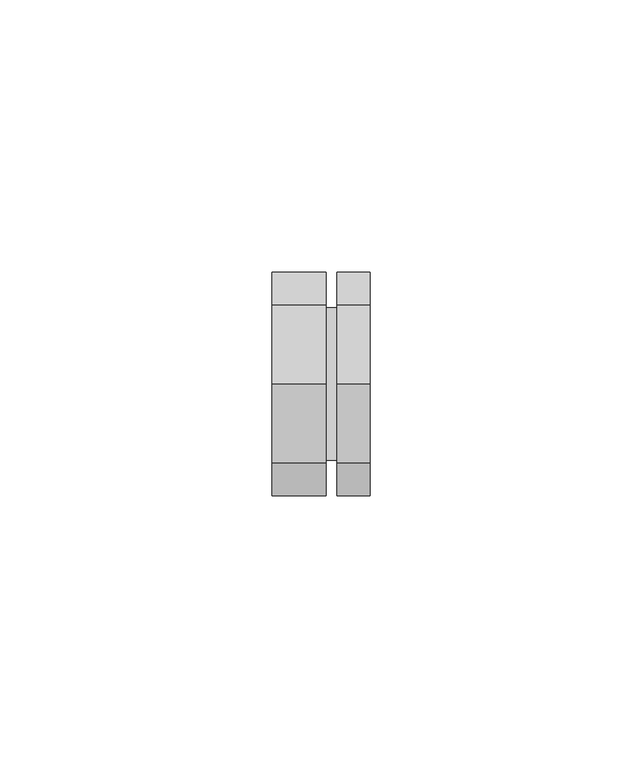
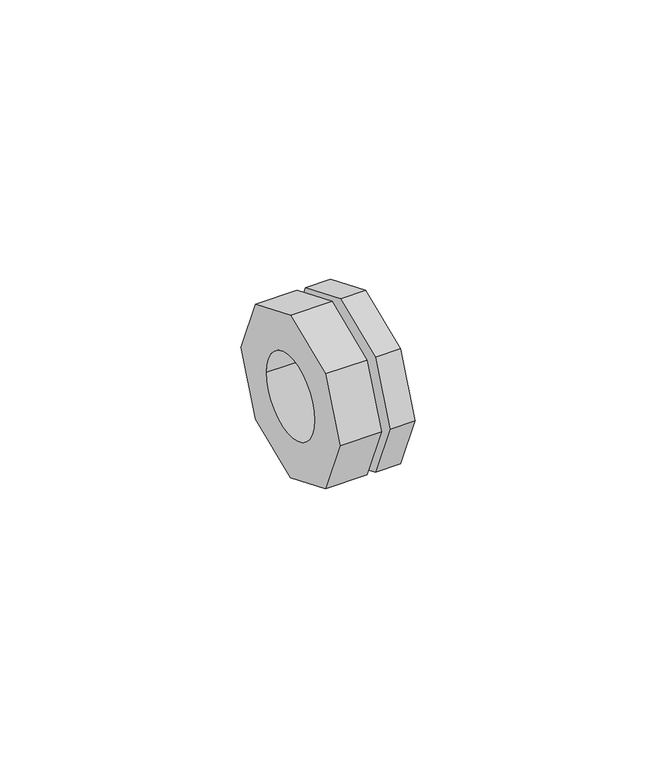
"""IFC4 building model written with IfcOpenShell, lengths in millimetres: pipe fitting geometry, 29_Соединение разборное труба_труба : Белый цвет."""

from ifc_helpers import new_model, si_unit, point, frame, origin, origin_2d, place, context, project, spatial, polyline, circle_curve, trimmed, segment, composite_curve, outline, extrude, source, transform, mapped, element, save


def pipe_fitting_d9629d4b(model_context):
    return source(origin(), model_context, "Body", "SweptSolid", [
        extrude(outline(composite_curve([segment(trimmed(circle_curve(origin_2d(), 14.0), [point((-14.0, 0.0))], [point((14.0, 0.0))], False, "CARTESIAN"), True, "CONTINUOUS"), segment(trimmed(circle_curve(origin_2d(), 14.0), [point((14.0, 0.0))], [point((-14.0, 0.0))], False, "CARTESIAN"), True, "CONTINUOUS")], self_intersect=False), holes=[composite_curve([segment(trimmed(circle_curve(origin_2d(), 10.0), [point((-10.0, 0.0))], [point((10.0, 0.0))], True, "CARTESIAN"), True, "CONTINUOUS"), segment(trimmed(circle_curve(origin_2d(), 10.0), [point((10.0, 0.0))], [point((-10.0, 0.0))], True, "CARTESIAN"), True, "CONTINUOUS")], self_intersect=False)]), frame((0.0, 0.0, 0.0), z_axis=(1.0, 0.0, 0.0), x_axis=(0.0, 1.0, 0.0)), (0.0, 0.0, 1.0), 2.0),
        extrude(outline(polyline([(-14.5419704, 14.5419704), (0.0, 20.5654518), (14.5419704, 14.5419704), (20.5654518, 0.0), (14.5419704, -14.5419704), (0.0, -20.5654518), (-14.5419704, -14.5419704), (-20.5654518, 0.0), (-14.5419704, 14.5419704)]), holes=[composite_curve([segment(trimmed(circle_curve(origin_2d(), 10.0), [point((-10.0, 0.0))], [point((10.0, 0.0))], True, "CARTESIAN"), True, "CONTINUOUS"), segment(trimmed(circle_curve(origin_2d(), 10.0), [point((10.0, 0.0))], [point((-10.0, 0.0))], True, "CARTESIAN"), True, "CONTINUOUS")], self_intersect=False)]), frame((2.0, 0.0, 0.0), z_axis=(1.0, 0.0, 0.0), x_axis=(0.0, 1.0, 0.0)), (0.0, 0.0, 1.0), 6.0),
        extrude(outline(polyline([(-14.5419704, 14.5419704), (0.0, 20.5654518), (14.5419704, 14.5419704), (20.5654518, 0.0), (14.5419704, -14.5419704), (0.0, -20.5654518), (-14.5419704, -14.5419704), (-20.5654518, 0.0), (-14.5419704, 14.5419704)]), holes=[composite_curve([segment(trimmed(circle_curve(origin_2d(), 10.0), [point((-10.0, 0.0))], [point((10.0, 0.0))], True, "CARTESIAN"), True, "CONTINUOUS"), segment(trimmed(circle_curve(origin_2d(), 10.0), [point((10.0, 0.0))], [point((-10.0, 0.0))], True, "CARTESIAN"), True, "CONTINUOUS")], self_intersect=False)]), frame((-10.0, 0.0, 0.0), z_axis=(1.0, 0.0, 0.0), x_axis=(0.0, 1.0, 0.0)), (0.0, 0.0, 1.0), 10.0),
    ])


if __name__ == "__main__":
    model = new_model("IFC4")
    model_context = context("Model", 3, world=origin())
    ifc_project = project(units=[si_unit("LENGTHUNIT", "METRE", prefix="MILLI")], contexts=[model_context])
    site = spatial("IfcSite", under=ifc_project)
    building = spatial("IfcBuilding", under=site)
    placement = place(None, origin())
    pipe_fitting_shape = pipe_fitting_d9629d4b(model_context)
    element("IfcPipeFitting", 1, ObjectType="29_Соединение разборное труба_труба : Белый цвет", at=placement, inside=building, context=model_context, shape_type="MappedRepresentation", body=[
        mapped(pipe_fitting_shape, transform((0.0, 0.0, 0.0), x_axis=(1.0, 0.0, 0.0), y_axis=(0.0, 1.0, 0.0), z_axis=(0.0, 0.0, 1.0))),
    ])
    save(model, "model.ifc")
